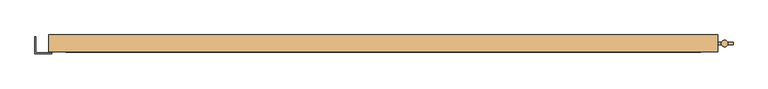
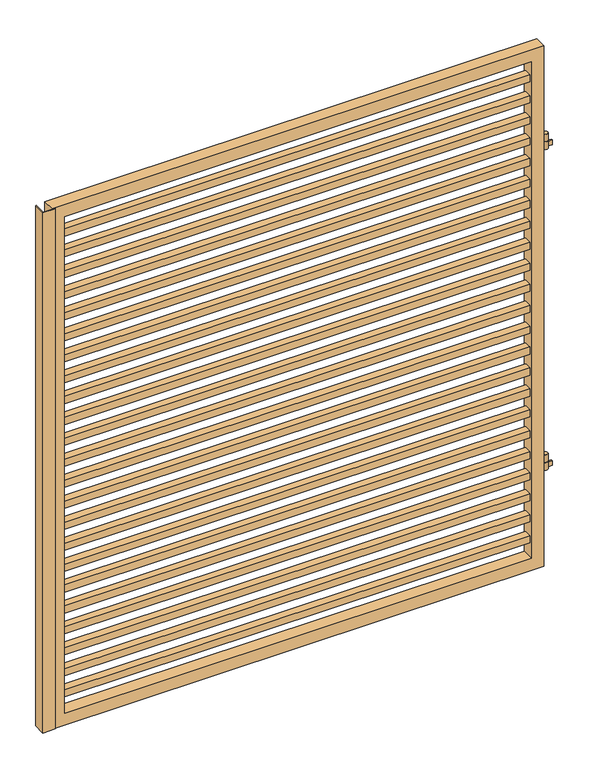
"""IFC4 building model written with IfcOpenShell, lengths in millimetres: door geometry, Portão Ripado Horizontal : Portão paramétrico - 2,00m."""

from ifc_helpers import new_model, si_unit, frame, origin, place, context, project, spatial, polyline, circle_curve, outline, extrude, source, transform, mapped, element, save
from ifc_brep_helpers import plane_surface, cylinder_surface, advanced_brep


def door_956eb95e(model_context):
    return source(origin(), model_context, "Body", "SolidModel", [
        extrude(outline(polyline([(-930.0, -50.0), (-930.0, -20.0), (930.0, -20.0), (930.0, -50.0), (-930.0, -50.0)])), frame((0.0, 0.0, 1991.8181818), z_axis=(0.0, 0.0, 1.0), x_axis=(1.0, 0.0, 0.0)), (0.0, 0.0, 1.0), 30.0),
        extrude(outline(polyline([(-930.0, -50.0), (-930.0, -20.0), (930.0, -20.0), (930.0, -50.0), (-930.0, -50.0)])), frame((0.0, 0.0, 1903.6363636), z_axis=(0.0, 0.0, 1.0), x_axis=(1.0, 0.0, 0.0)), (0.0, 0.0, 1.0), 30.0),
        extrude(outline(polyline([(-930.0, -50.0), (-930.0, -20.0), (930.0, -20.0), (930.0, -50.0), (-930.0, -50.0)])), frame((0.0, 0.0, 1815.4545455), z_axis=(0.0, 0.0, 1.0), x_axis=(1.0, 0.0, 0.0)), (0.0, 0.0, 1.0), 30.0),
        extrude(outline(polyline([(-1017.5, -62.5), (-970.0, -62.5), (-970.0, -65.0), (-1020.0, -65.0), (-1020.0, -15.0), (-1017.5, -15.0), (-1017.5, -62.5)])), frame((0.0, 0.0, 30.0), z_axis=(0.0, 0.0, 1.0), x_axis=(1.0, 0.0, 0.0)), (0.0, 0.0, 1.0), 2190.0),
        advanced_brep(
        [(1009.5, -35.0, 1800.0), (990.5, -35.0, 1800.0), (1009.5, -35.0, 1768.0), (990.5, -35.0, 1768.0), (1009.5, -35.0, 1795.0), (1008.9889792, -31.9261989, 1795.0), (1008.9889792, -31.9261989, 1775.0), (1009.5, -35.0, 1775.0), (1008.9889792, -38.0738011, 1775.0), (1008.9889792, -38.0738011, 1795.0), (1025.0, -38.0738011, 1795.0), (1025.0, -31.9261989, 1795.0), (1025.0, -31.9261989, 1775.0), (1025.0, -38.0738011, 1775.0)],
        [
            (0, 1, circle_curve(frame((1000.0, -35.0, 1800.0), z_axis=(0.0, 0.0, 1.0), x_axis=(-1.0, 0.0, 0.0)), 9.5)),
            (1, 0, circle_curve(frame((1000.0, -35.0, 1800.0), z_axis=(0.0, 0.0, 1.0), x_axis=(-1.0, 0.0, 0.0)), 9.5)),
            (2, 3, circle_curve(frame((1000.0, -35.0, 1768.0), z_axis=(0.0, 0.0, -1.0), x_axis=(-1.0, 0.0, 0.0)), 9.5)),
            (3, 2, circle_curve(frame((1000.0, -35.0, 1768.0), z_axis=(0.0, 0.0, -1.0), x_axis=(-1.0, 0.0, 0.0)), 9.5)),
            (0, 4),
            (4, 5, circle_curve(frame((1000.0, -35.0, 1795.0), z_axis=(0.0, 0.0, 1.0), x_axis=(-1.0, 0.0, 0.0)), 9.5)),
            (5, 6),
            (6, 7, circle_curve(frame((1000.0, -35.0, 1775.0), z_axis=(0.0, 0.0, -1.0), x_axis=(-1.0, 0.0, 0.0)), 9.5)),
            (7, 2),
            (3, 1),
            (7, 8, circle_curve(frame((1000.0, -35.0, 1775.0), z_axis=(0.0, 0.0, -1.0), x_axis=(-1.0, 0.0, 0.0)), 9.5)),
            (8, 9),
            (9, 4, circle_curve(frame((1000.0, -35.0, 1795.0), z_axis=(0.0, 0.0, 1.0), x_axis=(-1.0, 0.0, 0.0)), 9.5)),
            (10, 11),
            (11, 5),
            (9, 10),
            (12, 13),
            (13, 8),
            (6, 12),
            (13, 10),
            (12, 11),
        ],
        [
            plane_surface(frame((990.5, -35.0, 1800.0), z_axis=(0.0, 0.0, 1.0), x_axis=(0.0, -1.0, 0.0))),
            plane_surface(frame((990.5, -35.0, 1768.0), z_axis=(0.0, 0.0, -1.0), x_axis=(0.0, 1.0, 0.0))),
            cylinder_surface(frame((1000.0, -35.0, 1768.0), z_axis=(0.0, 0.0, 1.0), x_axis=(-1.0, 0.0, 0.0)), 9.5),
            plane_surface(frame((1023.8157703, -38.0738011, 1795.0), z_axis=(0.0, 0.0, 1.0), x_axis=(1.0, 0.0, 0.0))),
            plane_surface(frame((1023.8157703, -38.0738011, 1775.0), z_axis=(0.0, 0.0, -1.0), x_axis=(-1.0, 0.0, 0.0))),
            plane_surface(frame((1005.9658936, -38.0738011, 1795.0), z_axis=(0.0, -1.0, 0.0), x_axis=(0.0, 0.0, -1.0))),
            plane_surface(frame((1025.0, -38.0738011, 1795.0), z_axis=(1.0, 0.0, 0.0), x_axis=(0.0, 0.0, -1.0))),
            plane_surface(frame((1025.0, -31.9261989, 1795.0), z_axis=(0.0, 1.0, 0.0), x_axis=(0.0, 0.0, -1.0))),
        ],
        [
            (0, [[1, 2]]),
            (1, [[3, 4]]),
            (2, [[-1, 5, 6, 7, 8, 9, -4, 10]]),
            (2, [[-2, -10, -3, -9, 11, 12, 13, -5]]),
            (3, [[14, 15, -6, -13, 16]]),
            (4, [[17, 18, -11, -8, 19]]),
            (5, [[20, -16, -12, -18]]),
            (6, [[-14, -20, -17, 21]]),
            (7, [[-21, -19, -7, -15]]),
        ],
    ),
        advanced_brep(
        [(975.0, -31.9261989, 1825.3181331), (975.0, -38.0738011, 1825.3181331), (991.0110208, -38.0738011, 1825.3181331), (990.5, -35.0, 1825.3181331), (991.0110208, -31.9261989, 1825.3181331), (975.0, -38.0738011, 1805.3181331), (975.0, -31.9261989, 1805.3181331), (991.0110208, -31.9261989, 1805.3181331), (990.5, -35.0, 1805.3181331), (991.0110208, -38.0738011, 1805.3181331), (1009.5, -35.0, 1832.0), (990.5, -35.0, 1832.0), (1009.5, -35.0, 1800.0), (990.5, -35.0, 1800.0)],
        [
            (0, 1),
            (1, 2),
            (2, 3, circle_curve(frame((1000.0, -35.0, 1825.3181331), z_axis=(0.0, 0.0, -1.0), x_axis=(-1.0, 0.0, 0.0)), 9.5)),
            (3, 4, circle_curve(frame((1000.0, -35.0, 1825.3181331), z_axis=(0.0, 0.0, -1.0), x_axis=(-1.0, 0.0, 0.0)), 9.5)),
            (4, 0),
            (5, 6),
            (6, 7),
            (7, 8, circle_curve(frame((1000.0, -35.0, 1805.3181331), z_axis=(0.0, 0.0, 1.0), x_axis=(-1.0, 0.0, 0.0)), 9.5)),
            (8, 9, circle_curve(frame((1000.0, -35.0, 1805.3181331), z_axis=(0.0, 0.0, 1.0), x_axis=(-1.0, 0.0, 0.0)), 9.5)),
            (9, 5),
            (1, 5),
            (9, 2),
            (6, 0),
            (4, 7),
            (10, 11, circle_curve(frame((1000.0, -35.0, 1832.0), z_axis=(0.0, 0.0, 1.0), x_axis=(-1.0, 0.0, 0.0)), 9.5)),
            (11, 10, circle_curve(frame((1000.0, -35.0, 1832.0), z_axis=(0.0, 0.0, 1.0), x_axis=(-1.0, 0.0, 0.0)), 9.5)),
            (12, 13, circle_curve(frame((1000.0, -35.0, 1800.0), z_axis=(0.0, 0.0, -1.0), x_axis=(-1.0, 0.0, 0.0)), 9.5)),
            (13, 12, circle_curve(frame((1000.0, -35.0, 1800.0), z_axis=(0.0, 0.0, -1.0), x_axis=(-1.0, 0.0, 0.0)), 9.5)),
            (10, 12),
            (13, 8),
            (3, 11),
        ],
        [
            plane_surface(frame((988.0739421, -38.0738011, 1825.3181331), z_axis=(0.0, 0.0, 1.0), x_axis=(1.0, 0.0, 0.0))),
            plane_surface(frame((988.0739421, -38.0738011, 1805.3181331), z_axis=(0.0, 0.0, -1.0), x_axis=(-1.0, 0.0, 0.0))),
            plane_surface(frame((975.0, -38.0738011, 1825.3181331), z_axis=(0.0, -1.0, 0.0), x_axis=(0.0, 0.0, -1.0))),
            plane_surface(frame((994.0, -31.9261989, 1825.3181331), z_axis=(0.0, 1.0, 0.0), x_axis=(0.0, 0.0, -1.0))),
            plane_surface(frame((975.0, -31.9261989, 1825.3181331), z_axis=(-1.0, 0.0, 0.0), x_axis=(0.0, 0.0, -1.0))),
            plane_surface(frame((990.5, -35.0, 1832.0), z_axis=(0.0, 0.0, 1.0), x_axis=(0.0, -1.0, 0.0))),
            plane_surface(frame((990.5, -35.0, 1800.0), z_axis=(0.0, 0.0, -1.0), x_axis=(0.0, 1.0, 0.0))),
            cylinder_surface(frame((1000.0, -35.0, 1800.0), z_axis=(0.0, 0.0, 1.0), x_axis=(-1.0, 0.0, 0.0)), 9.5),
        ],
        [
            (0, [[1, 2, 3, 4, 5]]),
            (1, [[6, 7, 8, 9, 10]]),
            (2, [[11, -10, 12, -2]]),
            (3, [[13, -5, 14, -7]]),
            (4, [[-1, -13, -6, -11]]),
            (5, [[15, 16]]),
            (6, [[17, 18]]),
            (7, [[-15, 19, -18, 20, -8, -14, -4, 21]]),
            (7, [[-16, -21, -3, -12, -9, -20, -17, -19]]),
        ],
    ),
        advanced_brep(
        [(1009.5, -35.0, 450.0), (990.5, -35.0, 450.0), (1009.5, -35.0, 418.0), (990.5, -35.0, 418.0), (1009.5, -35.0, 445.0), (1008.9889792, -31.9261989, 445.0), (1008.9889792, -31.9261989, 425.0), (1009.5, -35.0, 425.0), (1008.9889792, -38.0738011, 425.0), (1008.9889792, -38.0738011, 445.0), (1025.0, -38.0738011, 445.0), (1025.0, -31.9261989, 445.0), (1025.0, -31.9261989, 425.0), (1025.0, -38.0738011, 425.0)],
        [
            (0, 1, circle_curve(frame((1000.0, -35.0, 450.0), z_axis=(0.0, 0.0, 1.0), x_axis=(-1.0, 0.0, 0.0)), 9.5)),
            (1, 0, circle_curve(frame((1000.0, -35.0, 450.0), z_axis=(0.0, 0.0, 1.0), x_axis=(-1.0, 0.0, 0.0)), 9.5)),
            (2, 3, circle_curve(frame((1000.0, -35.0, 418.0), z_axis=(0.0, 0.0, -1.0), x_axis=(-1.0, 0.0, 0.0)), 9.5)),
            (3, 2, circle_curve(frame((1000.0, -35.0, 418.0), z_axis=(0.0, 0.0, -1.0), x_axis=(-1.0, 0.0, 0.0)), 9.5)),
            (0, 4),
            (4, 5, circle_curve(frame((1000.0, -35.0, 445.0), z_axis=(0.0, 0.0, 1.0), x_axis=(-1.0, 0.0, 0.0)), 9.5)),
            (5, 6),
            (6, 7, circle_curve(frame((1000.0, -35.0, 425.0), z_axis=(0.0, 0.0, -1.0), x_axis=(-1.0, 0.0, 0.0)), 9.5)),
            (7, 2),
            (3, 1),
            (7, 8, circle_curve(frame((1000.0, -35.0, 425.0), z_axis=(0.0, 0.0, -1.0), x_axis=(-1.0, 0.0, 0.0)), 9.5)),
            (8, 9),
            (9, 4, circle_curve(frame((1000.0, -35.0, 445.0), z_axis=(0.0, 0.0, 1.0), x_axis=(-1.0, 0.0, 0.0)), 9.5)),
            (10, 11),
            (11, 5),
            (9, 10),
            (12, 13),
            (13, 8),
            (6, 12),
            (13, 10),
            (12, 11),
        ],
        [
            plane_surface(frame((990.5, -35.0, 450.0), z_axis=(0.0, 0.0, 1.0), x_axis=(0.0, -1.0, 0.0))),
            plane_surface(frame((990.5, -35.0, 418.0), z_axis=(0.0, 0.0, -1.0), x_axis=(0.0, 1.0, 0.0))),
            cylinder_surface(frame((1000.0, -35.0, 418.0), z_axis=(0.0, 0.0, 1.0), x_axis=(-1.0, 0.0, 0.0)), 9.5),
            plane_surface(frame((1023.8157703, -38.0738011, 445.0), z_axis=(0.0, 0.0, 1.0), x_axis=(1.0, 0.0, 0.0))),
            plane_surface(frame((1023.8157703, -38.0738011, 425.0), z_axis=(0.0, 0.0, -1.0), x_axis=(-1.0, 0.0, 0.0))),
            plane_surface(frame((1005.9658936, -38.0738011, 445.0), z_axis=(0.0, -1.0, 0.0), x_axis=(0.0, 0.0, -1.0))),
            plane_surface(frame((1025.0, -38.0738011, 445.0), z_axis=(1.0, 0.0, 0.0), x_axis=(0.0, 0.0, -1.0))),
            plane_surface(frame((1025.0, -31.9261989, 445.0), z_axis=(0.0, 1.0, 0.0), x_axis=(0.0, 0.0, -1.0))),
        ],
        [
            (0, [[1, 2]]),
            (1, [[3, 4]]),
            (2, [[-1, 5, 6, 7, 8, 9, -4, 10]]),
            (2, [[-2, -10, -3, -9, 11, 12, 13, -5]]),
            (3, [[14, 15, -6, -13, 16]]),
            (4, [[17, 18, -11, -8, 19]]),
            (5, [[20, -16, -12, -18]]),
            (6, [[-14, -20, -17, 21]]),
            (7, [[-21, -19, -7, -15]]),
        ],
    ),
        advanced_brep(
        [(975.0, -31.9261989, 475.3181331), (975.0, -38.0738011, 475.3181331), (991.0110208, -38.0738011, 475.3181331), (990.5, -35.0, 475.3181331), (991.0110208, -31.9261989, 475.3181331), (975.0, -38.0738011, 455.3181331), (975.0, -31.9261989, 455.3181331), (991.0110208, -31.9261989, 455.3181331), (990.5, -35.0, 455.3181331), (991.0110208, -38.0738011, 455.3181331), (1009.5, -35.0, 482.0), (990.5, -35.0, 482.0), (1009.5, -35.0, 450.0), (990.5, -35.0, 450.0)],
        [
            (0, 1),
            (1, 2),
            (2, 3, circle_curve(frame((1000.0, -35.0, 475.3181331), z_axis=(0.0, 0.0, -1.0), x_axis=(-1.0, 0.0, 0.0)), 9.5)),
            (3, 4, circle_curve(frame((1000.0, -35.0, 475.3181331), z_axis=(0.0, 0.0, -1.0), x_axis=(-1.0, 0.0, 0.0)), 9.5)),
            (4, 0),
            (5, 6),
            (6, 7),
            (7, 8, circle_curve(frame((1000.0, -35.0, 455.3181331), z_axis=(0.0, 0.0, 1.0), x_axis=(-1.0, 0.0, 0.0)), 9.5)),
            (8, 9, circle_curve(frame((1000.0, -35.0, 455.3181331), z_axis=(0.0, 0.0, 1.0), x_axis=(-1.0, 0.0, 0.0)), 9.5)),
            (9, 5),
            (1, 5),
            (9, 2),
            (6, 0),
            (4, 7),
            (10, 11, circle_curve(frame((1000.0, -35.0, 482.0), z_axis=(0.0, 0.0, 1.0), x_axis=(-1.0, 0.0, 0.0)), 9.5)),
            (11, 10, circle_curve(frame((1000.0, -35.0, 482.0), z_axis=(0.0, 0.0, 1.0), x_axis=(-1.0, 0.0, 0.0)), 9.5)),
            (12, 13, circle_curve(frame((1000.0, -35.0, 450.0), z_axis=(0.0, 0.0, -1.0), x_axis=(-1.0, 0.0, 0.0)), 9.5)),
            (13, 12, circle_curve(frame((1000.0, -35.0, 450.0), z_axis=(0.0, 0.0, -1.0), x_axis=(-1.0, 0.0, 0.0)), 9.5)),
            (10, 12),
            (13, 8),
            (3, 11),
        ],
        [
            plane_surface(frame((988.0739421, -38.0738011, 475.3181331), z_axis=(0.0, 0.0, 1.0), x_axis=(1.0, 0.0, 0.0))),
            plane_surface(frame((988.0739421, -38.0738011, 455.3181331), z_axis=(0.0, 0.0, -1.0), x_axis=(-1.0, 0.0, 0.0))),
            plane_surface(frame((975.0, -38.0738011, 475.3181331), z_axis=(0.0, -1.0, 0.0), x_axis=(0.0, 0.0, -1.0))),
            plane_surface(frame((994.0, -31.9261989, 475.3181331), z_axis=(0.0, 1.0, 0.0), x_axis=(0.0, 0.0, -1.0))),
            plane_surface(frame((975.0, -31.9261989, 475.3181331), z_axis=(-1.0, 0.0, 0.0), x_axis=(0.0, 0.0, -1.0))),
            plane_surface(frame((990.5, -35.0, 482.0), z_axis=(0.0, 0.0, 1.0), x_axis=(0.0, -1.0, 0.0))),
            plane_surface(frame((990.5, -35.0, 450.0), z_axis=(0.0, 0.0, -1.0), x_axis=(0.0, 1.0, 0.0))),
            cylinder_surface(frame((1000.0, -35.0, 450.0), z_axis=(0.0, 0.0, 1.0), x_axis=(-1.0, 0.0, 0.0)), 9.5),
        ],
        [
            (0, [[1, 2, 3, 4, 5]]),
            (1, [[6, 7, 8, 9, 10]]),
            (2, [[11, -10, 12, -2]]),
            (3, [[13, -5, 14, -7]]),
            (4, [[-1, -13, -6, -11]]),
            (5, [[15, 16]]),
            (6, [[17, 18]]),
            (7, [[-15, 19, -18, 20, -8, -14, -4, 21]]),
            (7, [[-16, -21, -3, -12, -9, -20, -17, -19]]),
        ],
    ),
        extrude(outline(polyline([(-930.0, -50.0), (-930.0, -20.0), (930.0, -20.0), (930.0, -50.0), (-930.0, -50.0)])), frame((0.0, 0.0, 1727.2727273), z_axis=(0.0, 0.0, 1.0), x_axis=(1.0, 0.0, 0.0)), (0.0, 0.0, 1.0), 30.0),
        extrude(outline(polyline([(-930.0, -50.0), (-930.0, -20.0), (930.0, -20.0), (930.0, -50.0), (-930.0, -50.0)])), frame((0.0, 0.0, 1639.0909091), z_axis=(0.0, 0.0, 1.0), x_axis=(1.0, 0.0, 0.0)), (0.0, 0.0, 1.0), 30.0),
        extrude(outline(polyline([(-930.0, -50.0), (-930.0, -20.0), (930.0, -20.0), (930.0, -50.0), (-930.0, -50.0)])), frame((0.0, 0.0, 1550.9090909), z_axis=(0.0, 0.0, 1.0), x_axis=(1.0, 0.0, 0.0)), (0.0, 0.0, 1.0), 30.0),
        extrude(outline(polyline([(-930.0, -50.0), (-930.0, -20.0), (930.0, -20.0), (930.0, -50.0), (-930.0, -50.0)])), frame((0.0, 0.0, 1462.7272727), z_axis=(0.0, 0.0, 1.0), x_axis=(1.0, 0.0, 0.0)), (0.0, 0.0, 1.0), 30.0),
        extrude(outline(polyline([(-930.0, -50.0), (-930.0, -20.0), (930.0, -20.0), (930.0, -50.0), (-930.0, -50.0)])), frame((0.0, 0.0, 1374.5454545), z_axis=(0.0, 0.0, 1.0), x_axis=(1.0, 0.0, 0.0)), (0.0, 0.0, 1.0), 30.0),
        extrude(outline(polyline([(-930.0, -50.0), (-930.0, -20.0), (930.0, -20.0), (930.0, -50.0), (-930.0, -50.0)])), frame((0.0, 0.0, 1286.3636364), z_axis=(0.0, 0.0, 1.0), x_axis=(1.0, 0.0, 0.0)), (0.0, 0.0, 1.0), 30.0),
        extrude(outline(polyline([(-930.0, -50.0), (-930.0, -20.0), (930.0, -20.0), (930.0, -50.0), (-930.0, -50.0)])), frame((0.0, 0.0, 1198.1818182), z_axis=(0.0, 0.0, 1.0), x_axis=(1.0, 0.0, 0.0)), (0.0, 0.0, 1.0), 30.0),
        extrude(outline(polyline([(-930.0, -50.0), (-930.0, -20.0), (930.0, -20.0), (930.0, -50.0), (-930.0, -50.0)])), frame((0.0, 0.0, 1110.0), z_axis=(0.0, 0.0, 1.0), x_axis=(1.0, 0.0, 0.0)), (0.0, 0.0, 1.0), 30.0),
        extrude(outline(polyline([(-930.0, -50.0), (-930.0, -20.0), (930.0, -20.0), (930.0, -50.0), (-930.0, -50.0)])), frame((0.0, 0.0, 1021.8181818), z_axis=(0.0, 0.0, 1.0), x_axis=(1.0, 0.0, 0.0)), (0.0, 0.0, 1.0), 30.0),
        extrude(outline(polyline([(-930.0, -50.0), (-930.0, -20.0), (930.0, -20.0), (930.0, -50.0), (-930.0, -50.0)])), frame((0.0, 0.0, 933.6363636), z_axis=(0.0, 0.0, 1.0), x_axis=(1.0, 0.0, 0.0)), (0.0, 0.0, 1.0), 30.0),
        extrude(outline(polyline([(-930.0, -50.0), (-930.0, -20.0), (930.0, -20.0), (930.0, -50.0), (-930.0, -50.0)])), frame((0.0, 0.0, 845.4545455), z_axis=(0.0, 0.0, 1.0), x_axis=(1.0, 0.0, 0.0)), (0.0, 0.0, 1.0), 30.0),
        extrude(outline(polyline([(-930.0, -50.0), (-930.0, -20.0), (930.0, -20.0), (930.0, -50.0), (-930.0, -50.0)])), frame((0.0, 0.0, 757.2727273), z_axis=(0.0, 0.0, 1.0), x_axis=(1.0, 0.0, 0.0)), (0.0, 0.0, 1.0), 30.0),
        extrude(outline(polyline([(-930.0, -50.0), (-930.0, -20.0), (930.0, -20.0), (930.0, -50.0), (-930.0, -50.0)])), frame((0.0, 0.0, 669.0909091), z_axis=(0.0, 0.0, 1.0), x_axis=(1.0, 0.0, 0.0)), (0.0, 0.0, 1.0), 30.0),
        extrude(outline(polyline([(-930.0, -50.0), (-930.0, -20.0), (930.0, -20.0), (930.0, -50.0), (-930.0, -50.0)])), frame((0.0, 0.0, 580.9090909), z_axis=(0.0, 0.0, 1.0), x_axis=(1.0, 0.0, 0.0)), (0.0, 0.0, 1.0), 30.0),
        extrude(outline(polyline([(-930.0, -50.0), (-930.0, -20.0), (930.0, -20.0), (930.0, -50.0), (-930.0, -50.0)])), frame((0.0, 0.0, 492.7272727), z_axis=(0.0, 0.0, 1.0), x_axis=(1.0, 0.0, 0.0)), (0.0, 0.0, 1.0), 30.0),
        extrude(outline(polyline([(-930.0, -50.0), (-930.0, -20.0), (930.0, -20.0), (930.0, -50.0), (-930.0, -50.0)])), frame((0.0, 0.0, 404.5454545), z_axis=(0.0, 0.0, 1.0), x_axis=(1.0, 0.0, 0.0)), (0.0, 0.0, 1.0), 30.0),
        extrude(outline(polyline([(-930.0, -50.0), (-930.0, -20.0), (930.0, -20.0), (930.0, -50.0), (-930.0, -50.0)])), frame((0.0, 0.0, 316.3636364), z_axis=(0.0, 0.0, 1.0), x_axis=(1.0, 0.0, 0.0)), (0.0, 0.0, 1.0), 30.0),
        extrude(outline(polyline([(-930.0, -50.0), (-930.0, -20.0), (930.0, -20.0), (930.0, -50.0), (-930.0, -50.0)])), frame((0.0, 0.0, 228.1818182), z_axis=(0.0, 0.0, 1.0), x_axis=(1.0, 0.0, 0.0)), (0.0, 0.0, 1.0), 30.0),
        extrude(outline(polyline([(-930.0, -50.0), (-930.0, -20.0), (930.0, -20.0), (930.0, -50.0), (-930.0, -50.0)])), frame((0.0, 0.0, 2080.0), z_axis=(0.0, 0.0, 1.0), x_axis=(1.0, 0.0, 0.0)), (0.0, 0.0, 1.0), 30.0),
        extrude(outline(polyline([(-930.0, -50.0), (-930.0, -20.0), (930.0, -20.0), (930.0, -50.0), (-930.0, -50.0)])), frame((0.0, 0.0, 140.0), z_axis=(0.0, 0.0, 1.0), x_axis=(1.0, 0.0, 0.0)), (0.0, 0.0, 1.0), 30.0),
        extrude(outline(polyline([(30.0, -980.0), (30.0, 980.0), (2220.0, 980.0), (2220.0, -980.0), (30.0, -980.0)]), holes=[polyline([(2170.0, -930.0), (2170.0, 930.0), (80.0, 930.0), (80.0, -930.0), (2170.0, -930.0)])]), frame((0.0, -60.0, 0.0), z_axis=(0.0, 1.0, 0.0), x_axis=(0.0, 0.0, 1.0)), (0.0, 0.0, 1.0), 50.0),
    ])


if __name__ == "__main__":
    model = new_model("IFC4")
    model_context = context("Model", 3, world=origin())
    ifc_project = project(units=[si_unit("LENGTHUNIT", "METRE", prefix="MILLI")], contexts=[model_context])
    site = spatial("IfcSite", under=ifc_project)
    building = spatial("IfcBuilding", under=site)
    placement = place(None, origin())
    door_shape = door_956eb95e(model_context)
    element("IfcDoor", 1, ObjectType="Portão Ripado Horizontal : Portão paramétrico - 2,00m", at=placement, inside=building, context=model_context, shape_type="MappedRepresentation", body=[
        mapped(door_shape, transform((0.0, 0.0, 0.0), x_axis=(1.0, 0.0, 0.0), y_axis=(0.0, 1.0, 0.0), z_axis=(0.0, 0.0, 1.0))),
    ])
    save(model, "model.ifc")
